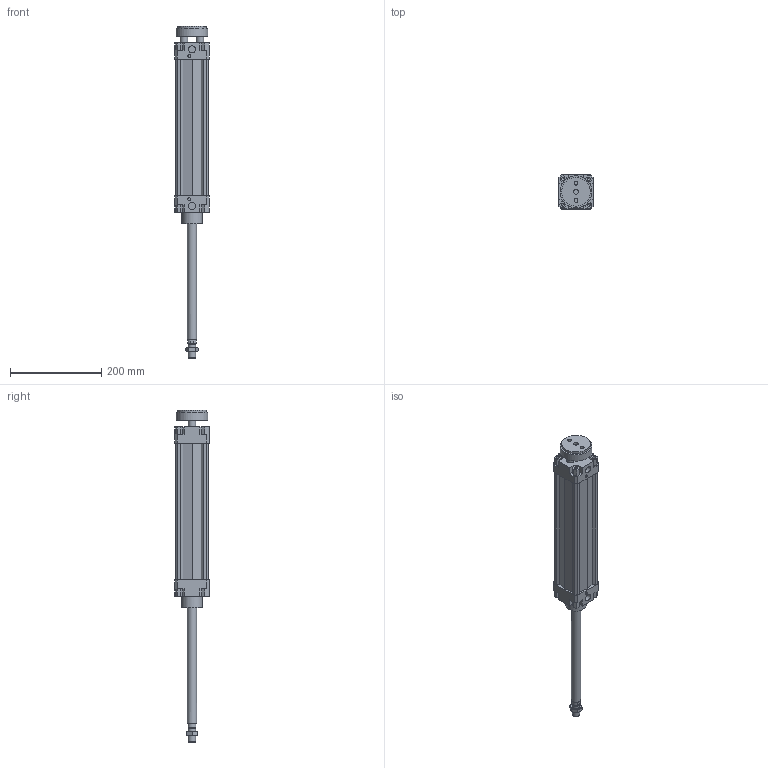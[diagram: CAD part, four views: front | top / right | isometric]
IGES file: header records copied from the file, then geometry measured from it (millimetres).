
Global section: file name: 132#_063_0250_02; native system: Autodesk Inventor 2014; preprocessor: unknown; author: A. Manieri; date: 20161006.160011; units: millimetre
Bounding box: 75 x 75 x 727 mm (x, y, z)
Volume: 1206495.3 mm3; surface area: 291213.4 mm2
Topology: 3 solids, 3 shells, 220 faces, 589 edges, 397 vertices
Faces by surface type: bspline 220
